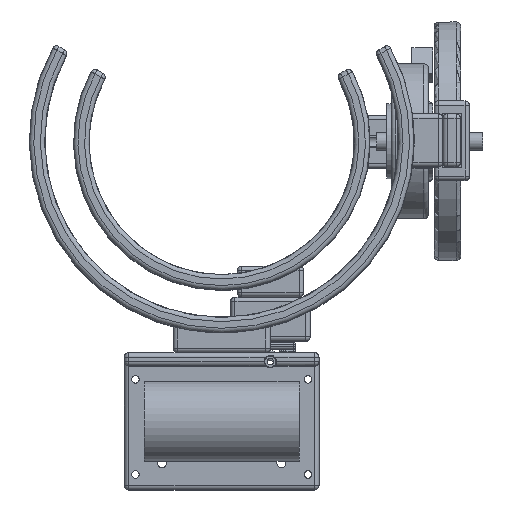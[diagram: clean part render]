
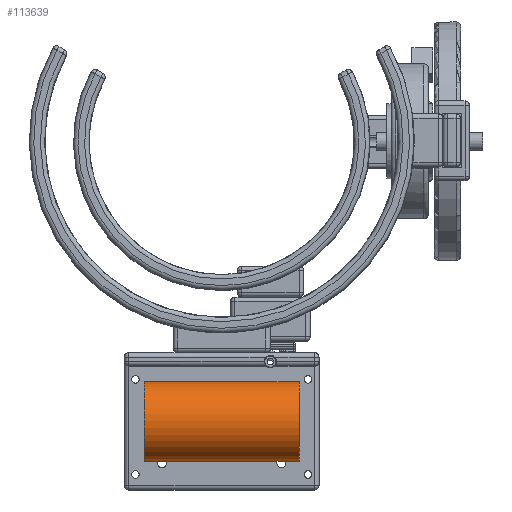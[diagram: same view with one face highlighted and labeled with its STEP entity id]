
A CAD part, top view. The second image highlights one B-rep face of the part: STEP entity #113639.
In plain terms, the highlighted cylindrical face has radius 18 mm (diameter 36 mm), a full revolution.
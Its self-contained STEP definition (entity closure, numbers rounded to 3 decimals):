
#113639 = ADVANCED_FACE('',(#113640),#113653,.T.);
#113640 = FACE_BOUND('',#113641,.T.);
#113641 = EDGE_LOOP('',(#113642,#113676,#113699,#113726));
#113642 = ORIENTED_EDGE('',*,*,#113643,.F.);
#113643 = EDGE_CURVE('',#113644,#113644,#113646,.T.);
#113644 = VERTEX_POINT('',#113645);
#113645 = CARTESIAN_POINT('',(35.,-127.,252.));
#113646 = SURFACE_CURVE('',#113647,(#113652,#113664),.PCURVE_S1.);
#113647 = CIRCLE('',#113648,18.);
#113648 = AXIS2_PLACEMENT_3D('',#113649,#113650,#113651);
#113649 = CARTESIAN_POINT('',(35.,-127.,234.));
#113650 = DIRECTION('',(1.,0.,0.));
#113651 = DIRECTION('',(-0.,0.,1.));
#113652 = PCURVE('',#113653,#113658);
#113653 = CYLINDRICAL_SURFACE('',#113654,18.);
#113654 = AXIS2_PLACEMENT_3D('',#113655,#113656,#113657);
#113655 = CARTESIAN_POINT('',(-35.,-127.,234.));
#113656 = DIRECTION('',(1.,0.,0.));
#113657 = DIRECTION('',(-0.,0.,1.));
#113658 = DEFINITIONAL_REPRESENTATION('',(#113659),#113663);
#113659 = LINE('',#113660,#113661);
#113660 = CARTESIAN_POINT('',(0.,70.));
#113661 = VECTOR('',#113662,1.);
#113662 = DIRECTION('',(1.,0.));
#113663 = ( GEOMETRIC_REPRESENTATION_CONTEXT(2) 
PARAMETRIC_REPRESENTATION_CONTEXT() REPRESENTATION_CONTEXT('2D SPACE',''
  ) );
#113664 = PCURVE('',#113665,#113670);
#113665 = PLANE('',#113666);
#113666 = AXIS2_PLACEMENT_3D('',#113667,#113668,#113669);
#113667 = CARTESIAN_POINT('',(35.,-127.,234.));
#113668 = DIRECTION('',(1.,0.,0.));
#113669 = DIRECTION('',(-0.,0.,1.));
#113670 = DEFINITIONAL_REPRESENTATION('',(#113671),#113675);
#113671 = CIRCLE('',#113672,18.);
#113672 = AXIS2_PLACEMENT_2D('',#113673,#113674);
#113673 = CARTESIAN_POINT('',(0.,0.));
#113674 = DIRECTION('',(1.,0.));
#113675 = ( GEOMETRIC_REPRESENTATION_CONTEXT(2) 
PARAMETRIC_REPRESENTATION_CONTEXT() REPRESENTATION_CONTEXT('2D SPACE',''
  ) );
#113676 = ORIENTED_EDGE('',*,*,#113677,.F.);
#113677 = EDGE_CURVE('',#113678,#113644,#113680,.T.);
#113678 = VERTEX_POINT('',#113679);
#113679 = CARTESIAN_POINT('',(-35.,-127.,252.));
#113680 = SEAM_CURVE('',#113681,(#113685,#113692),.PCURVE_S1.);
#113681 = LINE('',#113682,#113683);
#113682 = CARTESIAN_POINT('',(-35.,-127.,252.));
#113683 = VECTOR('',#113684,1.);
#113684 = DIRECTION('',(1.,0.,0.));
#113685 = PCURVE('',#113653,#113686);
#113686 = DEFINITIONAL_REPRESENTATION('',(#113687),#113691);
#113687 = LINE('',#113688,#113689);
#113688 = CARTESIAN_POINT('',(6.283,-0.));
#113689 = VECTOR('',#113690,1.);
#113690 = DIRECTION('',(0.,1.));
#113691 = ( GEOMETRIC_REPRESENTATION_CONTEXT(2) 
PARAMETRIC_REPRESENTATION_CONTEXT() REPRESENTATION_CONTEXT('2D SPACE',''
  ) );
#113692 = PCURVE('',#113653,#113693);
#113693 = DEFINITIONAL_REPRESENTATION('',(#113694),#113698);
#113694 = LINE('',#113695,#113696);
#113695 = CARTESIAN_POINT('',(0.,-0.));
#113696 = VECTOR('',#113697,1.);
#113697 = DIRECTION('',(0.,1.));
#113698 = ( GEOMETRIC_REPRESENTATION_CONTEXT(2) 
PARAMETRIC_REPRESENTATION_CONTEXT() REPRESENTATION_CONTEXT('2D SPACE',''
  ) );
#113699 = ORIENTED_EDGE('',*,*,#113700,.T.);
#113700 = EDGE_CURVE('',#113678,#113678,#113701,.T.);
#113701 = SURFACE_CURVE('',#113702,(#113707,#113714),.PCURVE_S1.);
#113702 = CIRCLE('',#113703,18.);
#113703 = AXIS2_PLACEMENT_3D('',#113704,#113705,#113706);
#113704 = CARTESIAN_POINT('',(-35.,-127.,234.));
#113705 = DIRECTION('',(1.,0.,0.));
#113706 = DIRECTION('',(-0.,0.,1.));
#113707 = PCURVE('',#113653,#113708);
#113708 = DEFINITIONAL_REPRESENTATION('',(#113709),#113713);
#113709 = LINE('',#113710,#113711);
#113710 = CARTESIAN_POINT('',(0.,0.));
#113711 = VECTOR('',#113712,1.);
#113712 = DIRECTION('',(1.,0.));
#113713 = ( GEOMETRIC_REPRESENTATION_CONTEXT(2) 
PARAMETRIC_REPRESENTATION_CONTEXT() REPRESENTATION_CONTEXT('2D SPACE',''
  ) );
#113714 = PCURVE('',#113715,#113720);
#113715 = PLANE('',#113716);
#113716 = AXIS2_PLACEMENT_3D('',#113717,#113718,#113719);
#113717 = CARTESIAN_POINT('',(-35.,-127.,234.));
#113718 = DIRECTION('',(1.,0.,0.));
#113719 = DIRECTION('',(-0.,0.,1.));
#113720 = DEFINITIONAL_REPRESENTATION('',(#113721),#113725);
#113721 = CIRCLE('',#113722,18.);
#113722 = AXIS2_PLACEMENT_2D('',#113723,#113724);
#113723 = CARTESIAN_POINT('',(0.,0.));
#113724 = DIRECTION('',(1.,0.));
#113725 = ( GEOMETRIC_REPRESENTATION_CONTEXT(2) 
PARAMETRIC_REPRESENTATION_CONTEXT() REPRESENTATION_CONTEXT('2D SPACE',''
  ) );
#113726 = ORIENTED_EDGE('',*,*,#113677,.T.);
